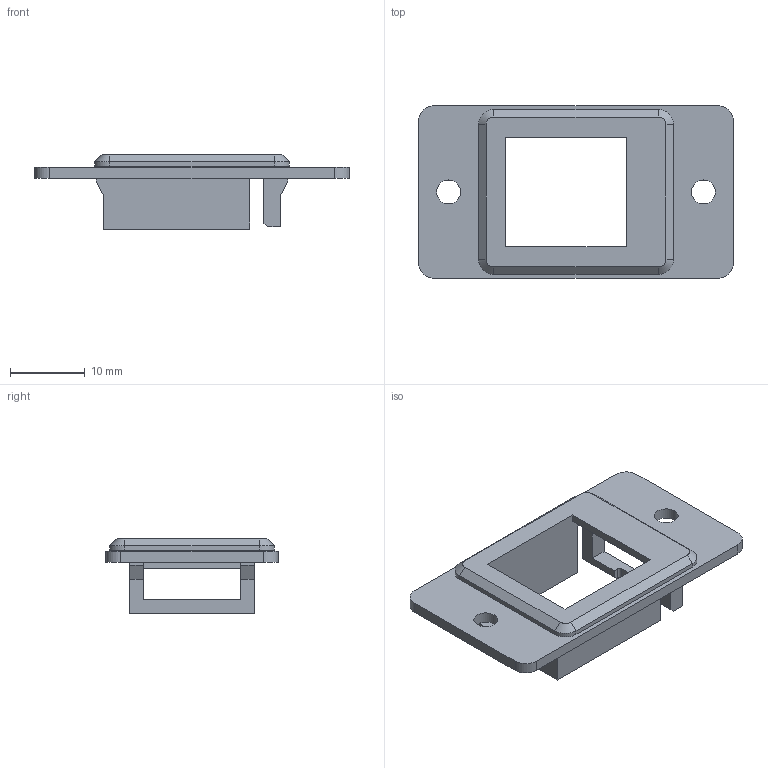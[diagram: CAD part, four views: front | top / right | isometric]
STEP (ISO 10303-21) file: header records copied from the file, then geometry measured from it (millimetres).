
FILE_DESCRIPTION(('FreeCAD Model'),'2;1');
FILE_NAME('Open CASCADE Shape Model','2026-05-19T10:10:15',(''),(''), 'Open CASCADE STEP processor 7.8','FreeCAD','Unknown');
FILE_SCHEMA(('AUTOMOTIVE_DESIGN { 1 0 10303 214 1 1 1 1 }'));
Length unit declared in the file: millimetre
Products named in the file (3): PMBZL_SL; SIM-BZALPL-SL; 3013BUS12xx
Assembly tree (2 placements, depth 2):
  PMBZL_SL
    SIM-BZALPL-SL
    3013BUS12xx
Bounding box: 42 x 23 x 9.9 mm (x, y, z)
Volume: 1801 mm3; surface area: 3361.8 mm2
Topology: 2 solids, 2 shells, 87 faces, 250 edges, 164 vertices
Faces by surface type: bspline 67, plane 10, cylinder 10
Full cylindrical faces by diameter (mm): 3.2 x2
Entity records: 3705 total; most frequent: CARTESIAN_POINT 1921, ORIENTED_EDGE 500, EDGE_CURVE 250, B_SPLINE_CURVE_WITH_KNOTS 196, VERTEX_POINT 164, DIRECTION 120, FACE_BOUND 96, EDGE_LOOP 96
